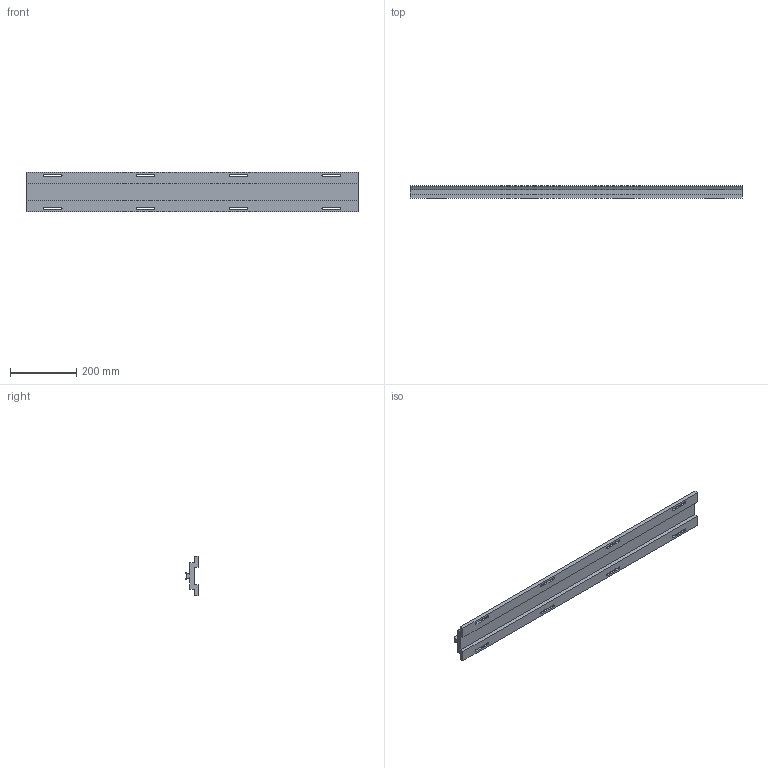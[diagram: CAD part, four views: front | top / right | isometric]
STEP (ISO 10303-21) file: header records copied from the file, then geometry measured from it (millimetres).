
FILE_DESCRIPTION (( 'STEP AP203' ), '1' );
FILE_NAME ('RAOB10-1.step', '2019-05-09T09:10:54', ( '' ), ( '' ), 'SwSTEP 2.0', 'SolidWorks 2016', '' );
FILE_SCHEMA (( 'CONFIG_CONTROL_DESIGN' ));
Length unit declared in the file: millimetre
Products named in the file (1): RAOB10-1
Bounding box: 1000 x 37 x 120 mm (x, y, z)
Surface area: 364332.8 mm2 (no closed solid volume)
Topology: 0 solids, 10 shells, 107 faces, 540 edges, 452 vertices
Faces by surface type: plane 75, cylinder 32
Entity records: 5486 total; most frequent: CARTESIAN_POINT 1100, DIRECTION 820, ORIENTED_EDGE 800, EDGE_CURVE 540, LINE 476, VECTOR 476, VERTEX_POINT 452, AXIS2_PLACEMENT_3D 172
